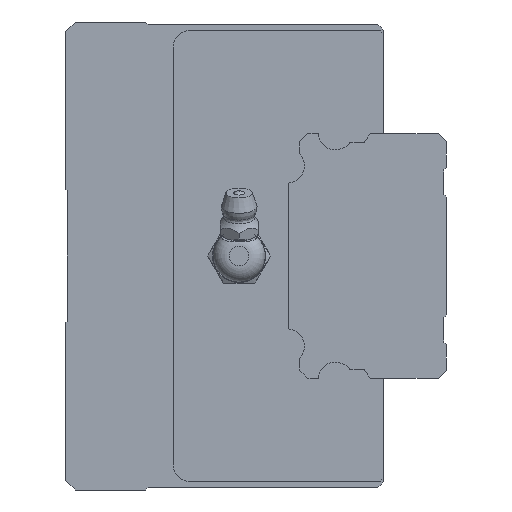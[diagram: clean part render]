
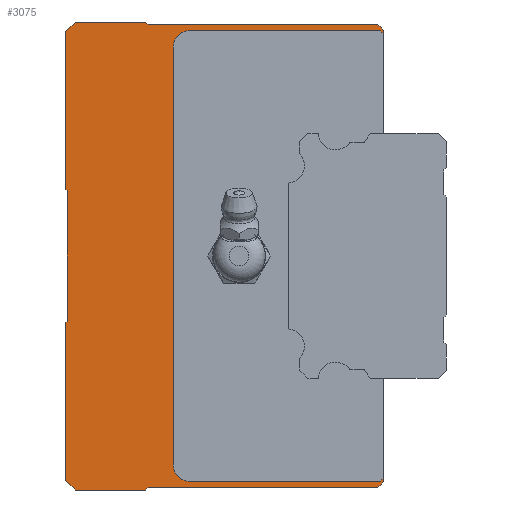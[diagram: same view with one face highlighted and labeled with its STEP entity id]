
A CAD part, left-side view. The second image highlights one B-rep face of the part: STEP entity #3075.
In plain terms, the highlighted planar face has unit normal (-1, 0, 0).
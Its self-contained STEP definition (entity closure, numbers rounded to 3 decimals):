
#203=CIRCLE('',#3407,3.);
#204=CIRCLE('',#3408,3.);
#787=ORIENTED_EDGE('',*,*,#1446,.F.);
#788=ORIENTED_EDGE('',*,*,#1302,.F.);
#789=ORIENTED_EDGE('',*,*,#1404,.F.);
#790=ORIENTED_EDGE('',*,*,#1401,.F.);
#791=ORIENTED_EDGE('',*,*,#1398,.F.);
#792=ORIENTED_EDGE('',*,*,#1395,.F.);
#793=ORIENTED_EDGE('',*,*,#1391,.F.);
#794=ORIENTED_EDGE('',*,*,#1437,.F.);
#795=ORIENTED_EDGE('',*,*,#1432,.F.);
#796=ORIENTED_EDGE('',*,*,#1429,.F.);
#797=ORIENTED_EDGE('',*,*,#1426,.F.);
#798=ORIENTED_EDGE('',*,*,#1423,.F.);
#799=ORIENTED_EDGE('',*,*,#1418,.F.);
#800=ORIENTED_EDGE('',*,*,#1415,.F.);
#801=ORIENTED_EDGE('',*,*,#1412,.F.);
#802=ORIENTED_EDGE('',*,*,#1409,.F.);
#803=ORIENTED_EDGE('',*,*,#1406,.F.);
#804=ORIENTED_EDGE('',*,*,#1308,.F.);
#805=ORIENTED_EDGE('',*,*,#1447,.F.);
#806=ORIENTED_EDGE('',*,*,#1448,.F.);
#807=ORIENTED_EDGE('',*,*,#1449,.F.);
#808=ORIENTED_EDGE('',*,*,#1450,.F.);
#809=ORIENTED_EDGE('',*,*,#1451,.F.);
#810=ORIENTED_EDGE('',*,*,#1452,.F.);
#1302=EDGE_CURVE('',#1683,#1684,#1973,.T.);
#1308=EDGE_CURVE('',#1689,#1690,#1979,.T.);
#1391=EDGE_CURVE('',#1768,#1769,#2020,.T.);
#1395=EDGE_CURVE('',#1769,#1772,#2024,.T.);
#1398=EDGE_CURVE('',#1772,#1774,#2027,.T.);
#1401=EDGE_CURVE('',#1774,#1776,#2030,.T.);
#1404=EDGE_CURVE('',#1776,#1683,#2033,.T.);
#1406=EDGE_CURVE('',#1690,#1778,#2035,.T.);
#1409=EDGE_CURVE('',#1778,#1780,#2038,.T.);
#1412=EDGE_CURVE('',#1780,#1782,#2041,.T.);
#1415=EDGE_CURVE('',#1782,#1784,#2044,.T.);
#1418=EDGE_CURVE('',#1784,#1786,#2047,.T.);
#1423=EDGE_CURVE('',#1786,#1790,#2050,.T.);
#1426=EDGE_CURVE('',#1790,#1792,#2053,.T.);
#1429=EDGE_CURVE('',#1792,#1794,#2056,.T.);
#1432=EDGE_CURVE('',#1794,#1796,#2059,.T.);
#1437=EDGE_CURVE('',#1796,#1768,#2062,.T.);
#1446=EDGE_CURVE('',#1684,#1806,#2069,.T.);
#1447=EDGE_CURVE('',#1807,#1689,#2070,.T.);
#1448=EDGE_CURVE('',#1808,#1807,#2071,.T.);
#1449=EDGE_CURVE('',#1809,#1808,#203,.F.);
#1450=EDGE_CURVE('',#1810,#1809,#2072,.T.);
#1451=EDGE_CURVE('',#1811,#1810,#204,.F.);
#1452=EDGE_CURVE('',#1806,#1811,#2073,.T.);
#1683=VERTEX_POINT('',#4802);
#1684=VERTEX_POINT('',#4804);
#1689=VERTEX_POINT('',#4815);
#1690=VERTEX_POINT('',#4817);
#1768=VERTEX_POINT('',#4981);
#1769=VERTEX_POINT('',#4982);
#1772=VERTEX_POINT('',#4990);
#1774=VERTEX_POINT('',#4996);
#1776=VERTEX_POINT('',#5002);
#1778=VERTEX_POINT('',#5011);
#1780=VERTEX_POINT('',#5017);
#1782=VERTEX_POINT('',#5023);
#1784=VERTEX_POINT('',#5029);
#1786=VERTEX_POINT('',#5035);
#1790=VERTEX_POINT('',#5045);
#1792=VERTEX_POINT('',#5051);
#1794=VERTEX_POINT('',#5057);
#1796=VERTEX_POINT('',#5063);
#1806=VERTEX_POINT('',#5090);
#1807=VERTEX_POINT('',#5092);
#1808=VERTEX_POINT('',#5094);
#1809=VERTEX_POINT('',#5096);
#1810=VERTEX_POINT('',#5098);
#1811=VERTEX_POINT('',#5100);
#1973=LINE('',#4803,#2223);
#1979=LINE('',#4816,#2229);
#2020=LINE('',#4980,#2270);
#2024=LINE('',#4989,#2274);
#2027=LINE('',#4995,#2277);
#2030=LINE('',#5001,#2280);
#2033=LINE('',#5007,#2283);
#2035=LINE('',#5010,#2285);
#2038=LINE('',#5016,#2288);
#2041=LINE('',#5022,#2291);
#2044=LINE('',#5028,#2294);
#2047=LINE('',#5034,#2297);
#2050=LINE('',#5044,#2300);
#2053=LINE('',#5050,#2303);
#2056=LINE('',#5056,#2306);
#2059=LINE('',#5062,#2309);
#2062=LINE('',#5072,#2312);
#2069=LINE('',#5089,#2319);
#2070=LINE('',#5091,#2320);
#2071=LINE('',#5093,#2321);
#2072=LINE('',#5097,#2322);
#2073=LINE('',#5101,#2323);
#2223=VECTOR('',#3894,1000.);
#2229=VECTOR('',#3902,1000.);
#2270=VECTOR('',#4033,1000.);
#2274=VECTOR('',#4039,1000.);
#2277=VECTOR('',#4044,1000.);
#2280=VECTOR('',#4049,1000.);
#2283=VECTOR('',#4054,1000.);
#2285=VECTOR('',#4058,1000.);
#2288=VECTOR('',#4063,1000.);
#2291=VECTOR('',#4068,1000.);
#2294=VECTOR('',#4073,1000.);
#2297=VECTOR('',#4078,1000.);
#2300=VECTOR('',#4087,1000.);
#2303=VECTOR('',#4092,1000.);
#2306=VECTOR('',#4097,1000.);
#2309=VECTOR('',#4102,1000.);
#2312=VECTOR('',#4111,1000.);
#2319=VECTOR('',#4126,1000.);
#2320=VECTOR('',#4127,1000.);
#2321=VECTOR('',#4128,1000.);
#2322=VECTOR('',#4131,1000.);
#2323=VECTOR('',#4134,1000.);
#2496=EDGE_LOOP('',(#787,#788,#789,#790,#791,#792,#793,#794,#795,#796,#797,
#798,#799,#800,#801,#802,#803,#804,#805,#806,#807,#808,#809,#810));
#2751=FACE_BOUND('',#2496,.T.);
#2946=PLANE('',#3406);
#3075=ADVANCED_FACE('',(#2751),#2946,.F.);
#3406=AXIS2_PLACEMENT_3D('',#5088,#4124,#4125);
#3407=AXIS2_PLACEMENT_3D('',#5095,#4129,#4130);
#3408=AXIS2_PLACEMENT_3D('',#5099,#4132,#4133);
#3894=DIRECTION('',(0.,0.,-1.));
#3902=DIRECTION('',(0.,0.,-1.));
#4033=DIRECTION('',(0.,-0.707,0.707));
#4039=DIRECTION('',(0.,-1.,0.));
#4044=DIRECTION('',(0.,-0.707,-0.707));
#4049=DIRECTION('',(0.,-1.,0.));
#4054=DIRECTION('',(0.,-0.707,-0.707));
#4058=DIRECTION('',(0.,0.707,-0.707));
#4063=DIRECTION('',(0.,1.,0.));
#4068=DIRECTION('',(0.,0.707,-0.707));
#4073=DIRECTION('',(0.,1.,0.));
#4078=DIRECTION('',(0.,0.707,0.707));
#4087=DIRECTION('',(0.,0.,1.));
#4092=DIRECTION('',(0.,-0.707,0.707));
#4097=DIRECTION('',(0.,0.,1.));
#4102=DIRECTION('',(0.,0.707,0.707));
#4111=DIRECTION('',(0.,0.,1.));
#4124=DIRECTION('',(1.,0.,0.));
#4125=DIRECTION('',(0.,0.,-1.));
#4126=DIRECTION('',(0.,0.707,0.707));
#4127=DIRECTION('',(0.,-0.707,0.707));
#4128=DIRECTION('',(0.,-1.,0.));
#4129=DIRECTION('',(1.,0.,0.));
#4130=DIRECTION('',(0.,0.,-1.));
#4131=DIRECTION('',(0.,0.,-1.));
#4132=DIRECTION('',(1.,0.,0.));
#4133=DIRECTION('',(0.,0.,-1.));
#4134=DIRECTION('',(0.,1.,0.));
#4802=CARTESIAN_POINT('',(-52.5,0.,41.5));
#4803=CARTESIAN_POINT('',(-52.5,0.,41.5));
#4804=CARTESIAN_POINT('',(-52.5,0.,40.9));
#4815=CARTESIAN_POINT('',(-52.5,0.,-40.9));
#4816=CARTESIAN_POINT('',(-52.5,0.,41.5));
#4817=CARTESIAN_POINT('',(-52.5,0.,-41.5));
#4980=CARTESIAN_POINT('',(-52.5,58.4,41.2));
#4981=CARTESIAN_POINT('',(-52.5,58.4,41.2));
#4982=CARTESIAN_POINT('',(-52.5,56.6,43.));
#4989=CARTESIAN_POINT('',(-52.5,56.6,43.));
#4990=CARTESIAN_POINT('',(-52.5,43.7,43.));
#4995=CARTESIAN_POINT('',(-52.5,43.7,43.));
#4996=CARTESIAN_POINT('',(-52.5,43.2,42.5));
#5001=CARTESIAN_POINT('',(-52.5,43.2,42.5));
#5002=CARTESIAN_POINT('',(-52.5,1.,42.5));
#5007=CARTESIAN_POINT('',(-52.5,1.,42.5));
#5010=CARTESIAN_POINT('',(-52.5,0.,-41.5));
#5011=CARTESIAN_POINT('',(-52.5,1.,-42.5));
#5016=CARTESIAN_POINT('',(-52.5,1.,-42.5));
#5017=CARTESIAN_POINT('',(-52.5,43.2,-42.5));
#5022=CARTESIAN_POINT('',(-52.5,43.2,-42.5));
#5023=CARTESIAN_POINT('',(-52.5,43.7,-43.));
#5028=CARTESIAN_POINT('',(-52.5,43.7,-43.));
#5029=CARTESIAN_POINT('',(-52.5,56.6,-43.));
#5034=CARTESIAN_POINT('',(-52.5,56.6,-43.));
#5035=CARTESIAN_POINT('',(-52.5,58.4,-41.2));
#5044=CARTESIAN_POINT('',(-52.5,58.4,-41.2));
#5045=CARTESIAN_POINT('',(-52.5,58.4,-12.3));
#5050=CARTESIAN_POINT('',(-52.5,58.4,-12.3));
#5051=CARTESIAN_POINT('',(-52.5,58.1,-12.));
#5056=CARTESIAN_POINT('',(-52.5,58.1,-12.));
#5057=CARTESIAN_POINT('',(-52.5,58.1,12.));
#5062=CARTESIAN_POINT('',(-52.5,58.1,12.));
#5063=CARTESIAN_POINT('',(-52.5,58.4,12.3));
#5072=CARTESIAN_POINT('',(-52.5,58.4,12.3));
#5088=CARTESIAN_POINT('',(-52.5,0.,0.));
#5089=CARTESIAN_POINT('',(-52.5,-20.45,20.45));
#5090=CARTESIAN_POINT('',(-52.5,0.5,41.4));
#5091=CARTESIAN_POINT('',(-52.5,-20.45,-20.45));
#5092=CARTESIAN_POINT('',(-52.5,0.5,-41.4));
#5093=CARTESIAN_POINT('',(-52.5,0.,-41.4));
#5094=CARTESIAN_POINT('',(-52.5,35.6,-41.4));
#5095=CARTESIAN_POINT('',(-52.5,35.6,-38.4));
#5096=CARTESIAN_POINT('',(-52.5,38.6,-38.4));
#5097=CARTESIAN_POINT('',(-52.5,38.6,0.));
#5098=CARTESIAN_POINT('',(-52.5,38.6,38.4));
#5099=CARTESIAN_POINT('',(-52.5,35.6,38.4));
#5100=CARTESIAN_POINT('',(-52.5,35.6,41.4));
#5101=CARTESIAN_POINT('',(-52.5,0.,41.4));
